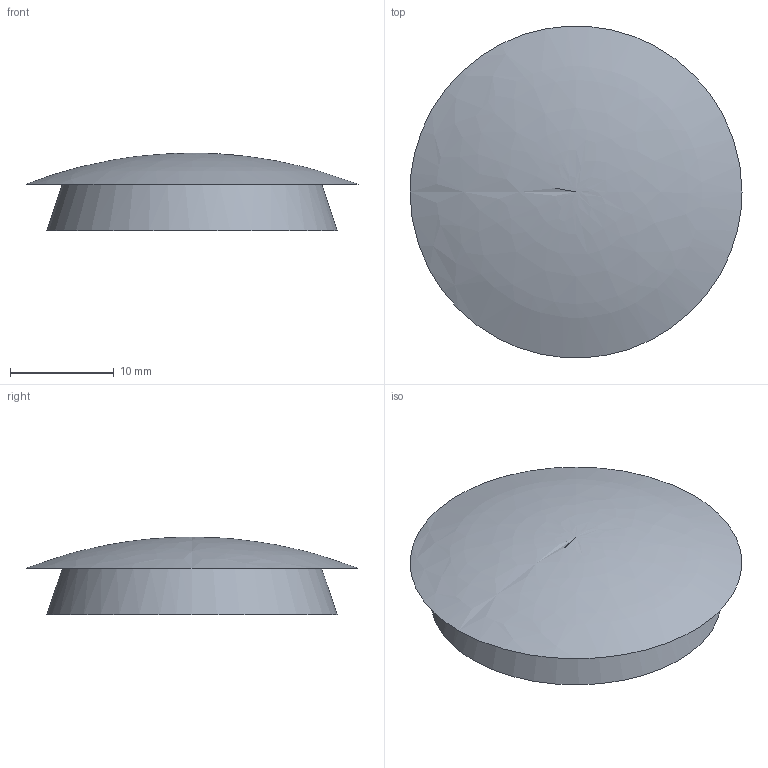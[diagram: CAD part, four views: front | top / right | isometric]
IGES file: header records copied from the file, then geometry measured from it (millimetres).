
Global section: file name: DR_PR3-25; native system: Autodesk Inventor 2015; preprocessor: unknown; author: CH.J; date: 20170922.114643; units: millimetre
Bounding box: 32 x 31.96 x 7.5 mm (x, y, z)
Volume: 2210.9 mm3; surface area: 2463.8 mm2
Topology: 1 solids, 1 shells, 6 faces, 12 edges, 9 vertices
Faces by surface type: bspline 6
